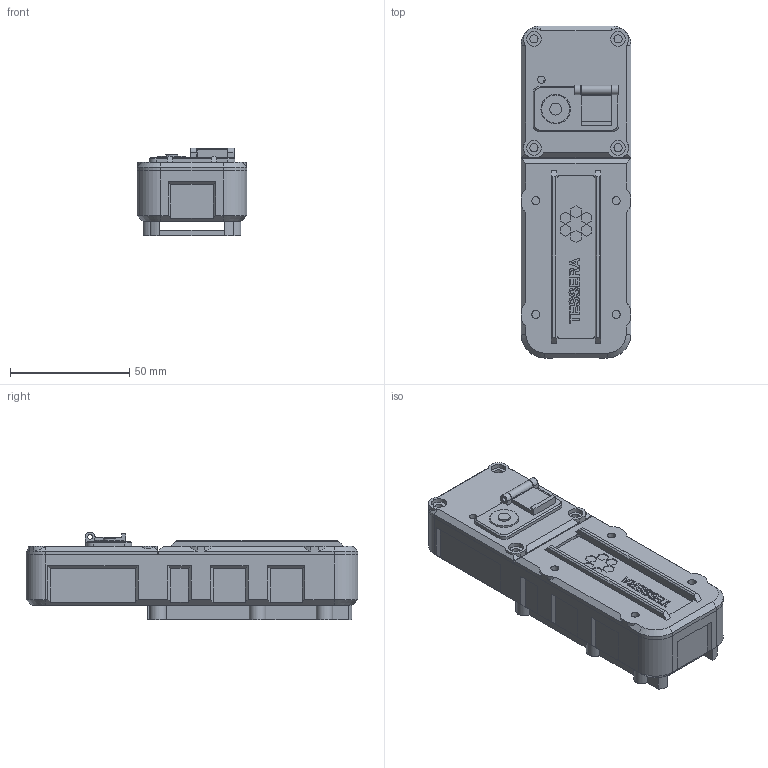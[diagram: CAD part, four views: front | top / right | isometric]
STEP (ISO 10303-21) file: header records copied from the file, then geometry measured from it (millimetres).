
FILE_DESCRIPTION(('Open CASCADE Model'),'2;1');
FILE_NAME('Open CASCADE Shape Model','2026-10-09T15:33:13',('Author'),( 'Open CASCADE'),'Open CASCADE STEP processor 7.9','Open CASCADE 7.9' ,'Unknown');
FILE_SCHEMA(('AUTOMOTIVE_DESIGN { 1 0 10303 214 1 1 1 1 }'));
Length unit declared in the file: millimetre
Products named in the file (16): fa1f653e-c3e5-11f1-ad0e-02fc00000001; body; lid; hatch; gasket_lid; gasket_hatch; keypad_tpu; keypad_retainer; sos_guard; usb_plug_tpu; pals_mount; gnss_tray; ref_cell; ref_board; ref_motor; ref_patch
Assembly tree (15 placements, depth 2):
  fa1f653e-c3e5-11f1-ad0e-02fc00000001
    body
    lid
    hatch
    gasket_lid
    gasket_hatch
    keypad_tpu
    keypad_retainer
    sos_guard
    usb_plug_tpu
    pals_mount
    gnss_tray
    ref_cell
    ref_board
    ref_motor
    ref_patch
Bounding box: 46 x 139 x 36.7 mm (x, y, z)
Volume: 126181.2 mm3; surface area: 69678.1 mm2
Topology: 15 solids, 15 shells, 839 faces, 2196 edges, 1449 vertices
Faces by surface type: plane 491, cylinder 250, extrusion 74, cone 24
Full cylindrical faces by diameter (mm): 1.7 x6, 1.9 x2, 2 x1, 2.1 x4, 2.3 x6, 3.1 x1, 3.2 x2, 3.4 x14, 3.6 x2, 4 x14, 5 x6, 6.2 x4, 6.6 x1, 9.6 x2, 9.8 x2, 10 x1, 11.8 x2, 12.4 x2, 14.8 x2, 16 x2, 18.6 x1
Entity records: 58630 total; most frequent: CARTESIAN_POINT 15892, DIRECTION 7358, VECTOR 4411, ORIENTED_EDGE 4392, PCURVE 4392, DEFINITIONAL_REPRESENTATION 4392, LINE 4337, EDGE_CURVE 2196
